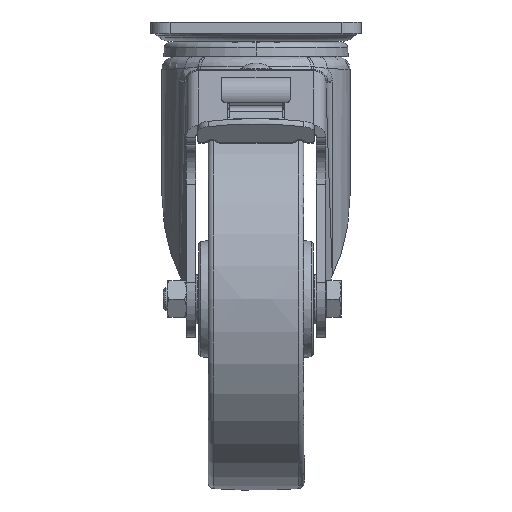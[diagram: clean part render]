
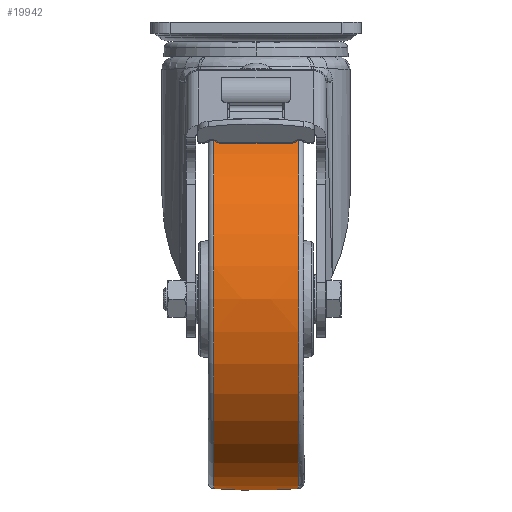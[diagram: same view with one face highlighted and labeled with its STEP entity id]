
A CAD part, top view. The second image highlights one B-rep face of the part: STEP entity #19942.
In plain terms, the highlighted free-form (B-spline) face has degree [3, 3] with [7, 4] control points.
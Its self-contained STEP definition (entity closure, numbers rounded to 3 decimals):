
#698 = DIRECTION ( 'NONE',  ( 1., 0., 0. ) ) ;
#2140 = CARTESIAN_POINT ( 'NONE',  ( -23.109, -60.991, -99.109 ) ) ;
#2615 = CARTESIAN_POINT ( 'NONE',  ( 23.109, -98.913, 6.223 ) ) ;
#3502 = CARTESIAN_POINT ( 'NONE',  ( 7.718, -100.1, 6.298 ) ) ;
#7751 = DIRECTION ( 'NONE',  ( 0., 0., -1. ) ) ;
#13331 = CARTESIAN_POINT ( 'NONE',  ( -7.718, 0., -100.298 ) ) ;
#19060 = ORIENTED_EDGE ( 'NONE', *, *, #116750, .T. ) ;
#19942 = ADVANCED_FACE ( 'NONE', ( #72046 ), #100073, .T. ) ;
#20326 = CARTESIAN_POINT ( 'NONE',  ( 0., 200., 0. ) ) ;
#20718 = CARTESIAN_POINT ( 'NONE',  ( -23.109, 102.743, -54.648 ) ) ;
#21374 = CARTESIAN_POINT ( 'NONE',  ( 22.222, 99.176, 0. ) ) ;
#21801 = CARTESIAN_POINT ( 'NONE',  ( 22.222, 0., 0. ) ) ;
#23649 = CARTESIAN_POINT ( 'NONE',  ( -7.718, -61.723, -100.298 ) ) ;
#28958 = AXIS2_PLACEMENT_3D ( 'NONE', #20326, #7751, #94012 ) ;
#31029 = CARTESIAN_POINT ( 'NONE',  ( 7.718, 61.723, -100.298 ) ) ;
#31953 = CARTESIAN_POINT ( 'NONE',  ( 23.109, 102.743, -54.648 ) ) ;
#32029 = VERTEX_POINT ( 'NONE', #98539 ) ;
#32483 = CARTESIAN_POINT ( 'NONE',  ( -22.222, 0., 0. ) ) ;
#34358 = EDGE_CURVE ( 'NONE', #69219, #118450, #42266, .T. ) ;
#34405 = CARTESIAN_POINT ( 'NONE',  ( 7.718, -61.723, -100.298 ) ) ;
#34871 = CARTESIAN_POINT ( 'NONE',  ( 7.718, 0., -100.298 ) ) ;
#35797 = CARTESIAN_POINT ( 'NONE',  ( -7.718, -103.975, -55.304 ) ) ;
#36969 = VERTEX_POINT ( 'NONE', #121592 ) ;
#42266 = CIRCLE ( 'NONE', #50717, 300. ) ;
#44236 = CARTESIAN_POINT ( 'NONE',  ( -23.109, -98.913, 6.223 ) ) ;
#50621 = DIRECTION ( 'NONE',  ( 0., 0., 1. ) ) ;
#50717 = AXIS2_PLACEMENT_3D ( 'NONE', #127175, #50621, #51543 ) ;
#51543 = DIRECTION ( 'NONE',  ( 0.074, 0.997, 0. ) ) ;
#52056 = CARTESIAN_POINT ( 'NONE',  ( -23.109, 60.991, -99.109 ) ) ;
#53448 = CARTESIAN_POINT ( 'NONE',  ( -23.109, 98.913, 6.223 ) ) ;
#58851 = EDGE_CURVE ( 'NONE', #32029, #69219, #126277, .T. ) ;
#61858 = CARTESIAN_POINT ( 'NONE',  ( -7.718, 100.1, 6.298 ) ) ;
#62618 = ORIENTED_EDGE ( 'NONE', *, *, #72962, .T. ) ;
#66150 = CARTESIAN_POINT ( 'NONE',  ( 7.718, -103.975, -55.304 ) ) ;
#67837 = EDGE_LOOP ( 'NONE', ( #62618, #90161, #83101, #19060 ) ) ;
#69219 = VERTEX_POINT ( 'NONE', #21374 ) ;
#69358 = AXIS2_PLACEMENT_3D ( 'NONE', #32483, #698, #107631 ) ;
#72046 = FACE_OUTER_BOUND ( 'NONE', #67837, .T. ) ;
#72503 = CARTESIAN_POINT ( 'NONE',  ( 23.109, 98.913, 6.223 ) ) ;
#72962 = EDGE_CURVE ( 'NONE', #36969, #118450, #125148, .T. ) ;
#73601 = DIRECTION ( 'NONE',  ( 1., 0., 0. ) ) ;
#77737 = CARTESIAN_POINT ( 'NONE',  ( 23.109, 0., -99.109 ) ) ;
#83101 = ORIENTED_EDGE ( 'NONE', *, *, #58851, .F. ) ;
#83336 = AXIS2_PLACEMENT_3D ( 'NONE', #21801, #73601, #96442 ) ;
#85659 = CIRCLE ( 'NONE', #28958, 300. ) ;
#90161 = ORIENTED_EDGE ( 'NONE', *, *, #34358, .F. ) ;
#94012 = DIRECTION ( 'NONE',  ( 0.074, -0.997, 0. ) ) ;
#95811 = CARTESIAN_POINT ( 'NONE',  ( -7.718, 61.723, -100.298 ) ) ;
#96442 = DIRECTION ( 'NONE',  ( 0., -1., 0. ) ) ;
#98234 = CARTESIAN_POINT ( 'NONE',  ( 23.109, -102.743, -54.648 ) ) ;
#98539 = CARTESIAN_POINT ( 'NONE',  ( 22.222, -99.176, 0. ) ) ;
#99637 = CARTESIAN_POINT ( 'NONE',  ( -23.109, -102.743, -54.648 ) ) ;
#100073 =( BOUNDED_SURFACE ( )  B_SPLINE_SURFACE ( 3, 3, ( 
 ( #44236, #107206, #3502, #2615 ),
 ( #99637, #35797, #66150, #98234 ),
 ( #2140, #23649, #34405, #130563 ),
 ( #119815, #13331, #34871, #77737 ),
 ( #52056, #95811, #31029, #105706 ),
 ( #20718, #116966, #138409, #31953 ),
 ( #53448, #61858, #136542, #72503 ) ),
 .UNSPECIFIED., .F., .F., .T. ) 
 B_SPLINE_SURFACE_WITH_KNOTS ( ( 4, 3, 4 ),
 ( 4, 4 ),
 ( 0., 1., 2. ),
 ( 0., 1. ),
 .UNSPECIFIED. ) 
 GEOMETRIC_REPRESENTATION_ITEM ( )  RATIONAL_B_SPLINE_SURFACE ( (
 ( 1.189, 1.187, 1.187, 1.189),
 ( 0.939, 0.937, 0.937, 0.939),
 ( 0.939, 0.937, 0.937, 0.939),
 ( 1.189, 1.187, 1.187, 1.189),
 ( 0.939, 0.937, 0.937, 0.939),
 ( 0.939, 0.937, 0.937, 0.939),
 ( 1.189, 1.187, 1.187, 1.189) ) ) 
 REPRESENTATION_ITEM ( '' )  SURFACE ( )  );
#105706 = CARTESIAN_POINT ( 'NONE',  ( 23.109, 60.991, -99.109 ) ) ;
#107206 = CARTESIAN_POINT ( 'NONE',  ( -7.718, -100.1, 6.298 ) ) ;
#107631 = DIRECTION ( 'NONE',  ( 0., -1., 0. ) ) ;
#116750 = EDGE_CURVE ( 'NONE', #32029, #36969, #85659, .T. ) ;
#116966 = CARTESIAN_POINT ( 'NONE',  ( -7.718, 103.975, -55.304 ) ) ;
#118450 = VERTEX_POINT ( 'NONE', #120277 ) ;
#119815 = CARTESIAN_POINT ( 'NONE',  ( -23.109, 0., -99.109 ) ) ;
#120277 = CARTESIAN_POINT ( 'NONE',  ( -22.222, 99.176, 0. ) ) ;
#121592 = CARTESIAN_POINT ( 'NONE',  ( -22.222, -99.176, 0. ) ) ;
#125148 = CIRCLE ( 'NONE', #69358, 99.176 ) ;
#126277 = CIRCLE ( 'NONE', #83336, 99.176 ) ;
#127175 = CARTESIAN_POINT ( 'NONE',  ( 0., -200., 0. ) ) ;
#130563 = CARTESIAN_POINT ( 'NONE',  ( 23.109, -60.991, -99.109 ) ) ;
#136542 = CARTESIAN_POINT ( 'NONE',  ( 7.718, 100.1, 6.298 ) ) ;
#138409 = CARTESIAN_POINT ( 'NONE',  ( 7.718, 103.975, -55.304 ) ) ;
